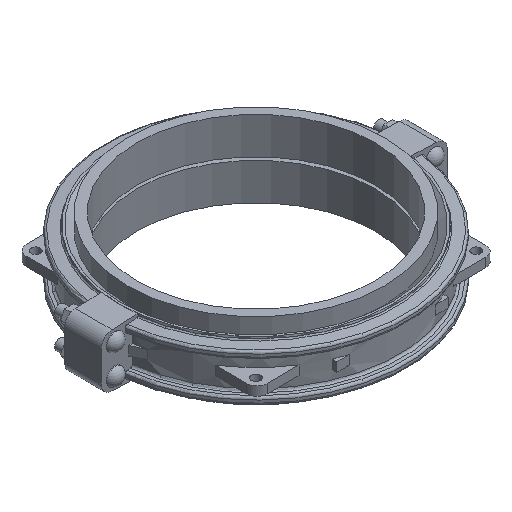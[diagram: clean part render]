
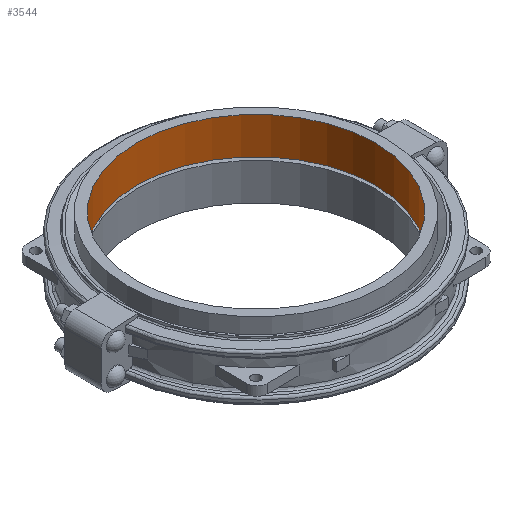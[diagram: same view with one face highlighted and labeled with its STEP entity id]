
A CAD part, isometric view. The second image highlights one B-rep face of the part: STEP entity #3544.
In plain terms, the highlighted cylindrical face has radius 330.2 mm (diameter 660.4 mm), a full revolution.
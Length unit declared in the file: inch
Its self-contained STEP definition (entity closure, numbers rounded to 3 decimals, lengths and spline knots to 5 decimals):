
#158=CYLINDRICAL_SURFACE('',#3979,13.);
#382=FACE_OUTER_BOUND('',#606,.T.);
#606=EDGE_LOOP('',(#3060,#3061,#3062,#3063,#3064,#3065));
#865=LINE('',#6479,#1122);
#1122=VECTOR('',#4960,13.);
#1291=CIRCLE('',#3977,13.);
#1292=CIRCLE('',#3978,13.);
#1293=CIRCLE('',#3980,13.);
#1294=CIRCLE('',#3981,13.);
#1623=VERTEX_POINT('',#6473);
#1624=VERTEX_POINT('',#6474);
#1625=VERTEX_POINT('',#6478);
#1626=VERTEX_POINT('',#6480);
#2103=EDGE_CURVE('',#1623,#1624,#1291,.T.);
#2104=EDGE_CURVE('',#1624,#1623,#1292,.T.);
#2105=EDGE_CURVE('',#1624,#1625,#865,.T.);
#2106=EDGE_CURVE('',#1626,#1625,#1293,.T.);
#2107=EDGE_CURVE('',#1625,#1626,#1294,.T.);
#3060=ORIENTED_EDGE('',*,*,#2103,.T.);
#3061=ORIENTED_EDGE('',*,*,#2105,.T.);
#3062=ORIENTED_EDGE('',*,*,#2106,.F.);
#3063=ORIENTED_EDGE('',*,*,#2107,.F.);
#3064=ORIENTED_EDGE('',*,*,#2105,.F.);
#3065=ORIENTED_EDGE('',*,*,#2104,.T.);
#3544=ADVANCED_FACE('',(#382),#158,.F.);
#3977=AXIS2_PLACEMENT_3D('',#6475,#4954,#4955);
#3978=AXIS2_PLACEMENT_3D('',#6476,#4956,#4957);
#3979=AXIS2_PLACEMENT_3D('',#6477,#4958,#4959);
#3980=AXIS2_PLACEMENT_3D('',#6481,#4961,#4962);
#3981=AXIS2_PLACEMENT_3D('',#6482,#4963,#4964);
#4954=DIRECTION('center_axis',(0.,0.,-1.));
#4955=DIRECTION('ref_axis',(1.,0.,0.));
#4956=DIRECTION('center_axis',(0.,0.,-1.));
#4957=DIRECTION('ref_axis',(1.,0.,0.));
#4958=DIRECTION('center_axis',(0.,0.,-1.));
#4959=DIRECTION('ref_axis',(0.,1.,0.));
#4960=DIRECTION('',(0.,0.,1.));
#4961=DIRECTION('center_axis',(0.,0.,-1.));
#4962=DIRECTION('ref_axis',(1.,0.,0.));
#4963=DIRECTION('center_axis',(0.,0.,-1.));
#4964=DIRECTION('ref_axis',(1.,0.,0.));
#6473=CARTESIAN_POINT('',(0.,13.,0.));
#6474=CARTESIAN_POINT('',(0.,-13.,0.));
#6475=CARTESIAN_POINT('Origin',(0.,0.,0.));
#6476=CARTESIAN_POINT('Origin',(0.,0.,0.));
#6477=CARTESIAN_POINT('Origin',(0.,0.,2.));
#6478=CARTESIAN_POINT('',(0.,-13.,4.));
#6479=CARTESIAN_POINT('',(0.,-13.,2.));
#6480=CARTESIAN_POINT('',(0.,13.,4.));
#6481=CARTESIAN_POINT('Origin',(0.,0.,4.));
#6482=CARTESIAN_POINT('Origin',(0.,0.,4.));
